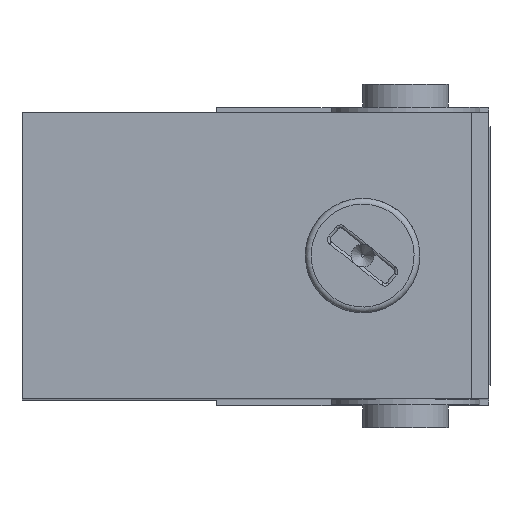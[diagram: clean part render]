
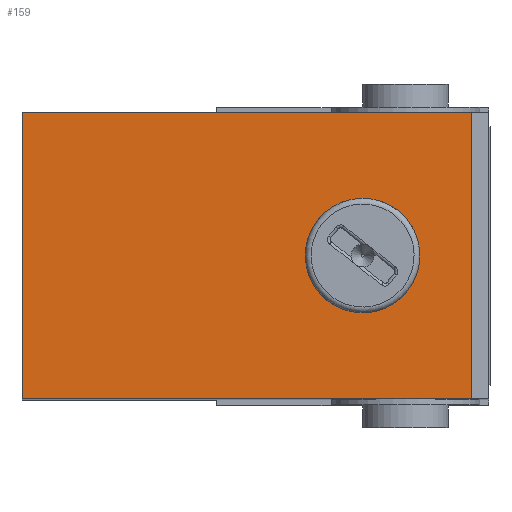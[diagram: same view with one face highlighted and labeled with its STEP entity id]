
A CAD part, top view. The second image highlights one B-rep face of the part: STEP entity #159.
In plain terms, the highlighted planar face has unit normal (0, 0, 1).
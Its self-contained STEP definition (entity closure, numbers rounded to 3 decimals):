
#159 = ADVANCED_FACE( '', ( #418, #419 ), #420, .F. );
#418 = FACE_BOUND( '', #684, .T. );
#419 = FACE_OUTER_BOUND( '', #685, .T. );
#420 = PLANE( '', #686 );
#684 = EDGE_LOOP( '', ( #1567 ) );
#685 = EDGE_LOOP( '', ( #1568, #1569, #1570, #1571 ) );
#686 = AXIS2_PLACEMENT_3D( '', #1572, #1573, #1574 );
#1567 = ORIENTED_EDGE( '', *, *, #1782, .F. );
#1568 = ORIENTED_EDGE( '', *, *, #1866, .F. );
#1569 = ORIENTED_EDGE( '', *, *, #1806, .T. );
#1570 = ORIENTED_EDGE( '', *, *, #1863, .F. );
#1571 = ORIENTED_EDGE( '', *, *, #1891, .T. );
#1572 = CARTESIAN_POINT( '', ( 2.9, 5.2, 24.1 ) );
#1573 = DIRECTION( '', ( 0., 0., -1. ) );
#1574 = DIRECTION( '', ( -1., 0., 0. ) );
#1782 = EDGE_CURVE( '', #2185, #2185, #2186, .F. );
#1806 = EDGE_CURVE( '', #2220, #2221, #2222, .T. );
#1863 = EDGE_CURVE( '', #2308, #2221, #2310, .T. );
#1866 = EDGE_CURVE( '', #2220, #2314, #2315, .T. );
#1891 = EDGE_CURVE( '', #2308, #2314, #2354, .T. );
#2185 = VERTEX_POINT( '', #2868 );
#2186 = CIRCLE( '', #2869, 2. );
#2220 = VERTEX_POINT( '', #2925 );
#2221 = VERTEX_POINT( '', #2926 );
#2222 = LINE( '', #2927, #2928 );
#2308 = VERTEX_POINT( '', #3055 );
#2310 = LINE( '', #3058, #3059 );
#2314 = VERTEX_POINT( '', #3065 );
#2315 = LINE( '', #3066, #3067 );
#2354 = LINE( '', #3128, #3129 );
#2868 = CARTESIAN_POINT( '', ( -3.5, 0., 24.1 ) );
#2869 = AXIS2_PLACEMENT_3D( '', #3361, #3362, #3363 );
#2925 = CARTESIAN_POINT( '', ( -13.4, 5., 24.1 ) );
#2926 = CARTESIAN_POINT( '', ( -13.4, -5., 24.1 ) );
#2927 = CARTESIAN_POINT( '', ( -13.4, 5., 24.1 ) );
#2928 = VECTOR( '', #3389, 1000. );
#3055 = CARTESIAN_POINT( '', ( 2.3, -5., 24.1 ) );
#3058 = CARTESIAN_POINT( '', ( 2.9, -5., 24.1 ) );
#3059 = VECTOR( '', #3488, 1000. );
#3065 = CARTESIAN_POINT( '', ( 2.3, 5., 24.1 ) );
#3066 = CARTESIAN_POINT( '', ( 2.9, 5., 24.1 ) );
#3067 = VECTOR( '', #3491, 1000. );
#3128 = CARTESIAN_POINT( '', ( 2.3, 5.2, 24.1 ) );
#3129 = VECTOR( '', #3520, 1000. );
#3361 = CARTESIAN_POINT( '', ( -1.5, 0., 24.1 ) );
#3362 = DIRECTION( '', ( 0., 0., -1. ) );
#3363 = DIRECTION( '', ( -1., 0., 0. ) );
#3389 = DIRECTION( '', ( 0., -1., 0. ) );
#3488 = DIRECTION( '', ( -1., 0., 0. ) );
#3491 = DIRECTION( '', ( 1., 0., 0. ) );
#3520 = DIRECTION( '', ( 0., 1., 0. ) );
